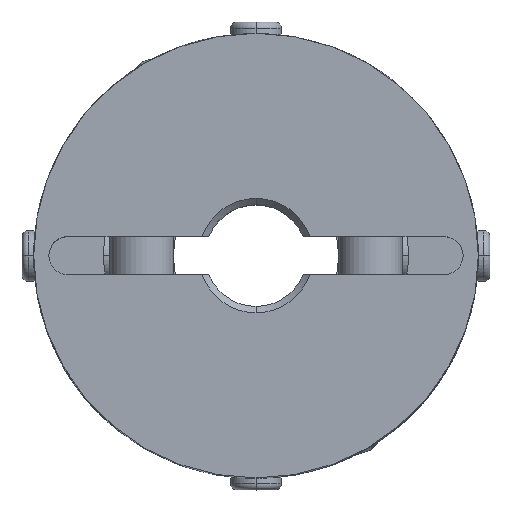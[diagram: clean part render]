
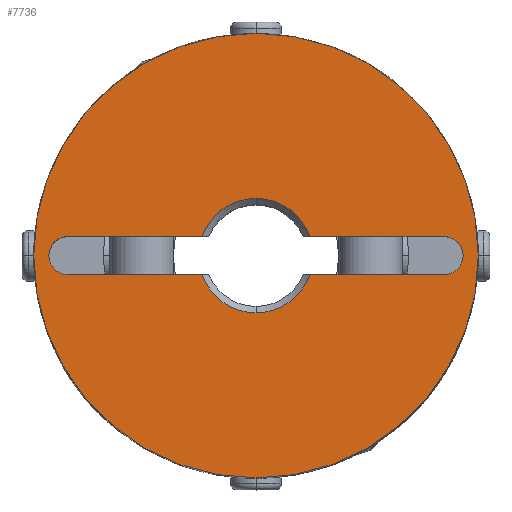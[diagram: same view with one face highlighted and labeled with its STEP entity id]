
A CAD part, top view. The second image highlights one B-rep face of the part: STEP entity #7736.
In plain terms, the highlighted planar face has unit normal (0, 0, 1).
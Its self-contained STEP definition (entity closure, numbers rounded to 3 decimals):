
#785=CARTESIAN_POINT('',(0.,17.5,17.5));
#786=VERTEX_POINT('',#785);
#793=CARTESIAN_POINT('',(0.,-17.5,17.5));
#794=VERTEX_POINT('',#793);
#795=CARTESIAN_POINT('',(0.0,0.0,17.5));
#796=DIRECTION('',(0.0,0.0,-1.0));
#797=DIRECTION('',(0.0,-1.0,0.0));
#798=AXIS2_PLACEMENT_3D('',#795,#796,#797);
#799=CIRCLE('',#798,17.5);
#800=EDGE_CURVE('',#786,#794,#799,.T.);
#1115=CARTESIAN_POINT('',(15.861,1.061,17.5));
#1116=VERTEX_POINT('',#1115);
#1132=CARTESIAN_POINT('',(14.8,-1.5,17.5));
#1133=VERTEX_POINT('',#1132);
#1140=CARTESIAN_POINT('',(14.8,0.,17.5));
#1141=DIRECTION('',(0.0,0.0,1.0));
#1142=DIRECTION('',(0.707,-0.707,0.0));
#1143=AXIS2_PLACEMENT_3D('',#1140,#1141,#1142);
#1144=CIRCLE('',#1143,1.5);
#1145=EDGE_CURVE('',#1133,#1116,#1144,.T.);
#1157=CARTESIAN_POINT('',(-15.861,-1.061,17.5));
#1158=VERTEX_POINT('',#1157);
#1174=CARTESIAN_POINT('',(-14.8,1.5,17.5));
#1175=VERTEX_POINT('',#1174);
#1182=CARTESIAN_POINT('',(-14.8,0.,17.5));
#1183=DIRECTION('',(0.0,0.0,1.0));
#1184=DIRECTION('',(-0.707,0.707,0.0));
#1185=AXIS2_PLACEMENT_3D('',#1182,#1183,#1184);
#1186=CIRCLE('',#1185,1.5);
#1187=EDGE_CURVE('',#1175,#1158,#1186,.T.);
#2307=CARTESIAN_POINT('',(0.,4.5,17.5));
#2308=VERTEX_POINT('',#2307);
#2316=CARTESIAN_POINT('',(4.243,1.5,17.5));
#2317=VERTEX_POINT('',#2316);
#2331=CARTESIAN_POINT('',(0.,0.,17.5));
#2332=DIRECTION('',(0.0,0.0,1.0));
#2333=DIRECTION('',(0.0,1.0,0.0));
#2334=AXIS2_PLACEMENT_3D('',#2331,#2332,#2333);
#2335=CIRCLE('',#2334,4.5);
#2336=EDGE_CURVE('',#2317,#2308,#2335,.T.);
#2346=CARTESIAN_POINT('',(0.,-4.5,17.5));
#2347=VERTEX_POINT('',#2346);
#2363=CARTESIAN_POINT('',(-4.243,-1.5,17.5));
#2364=VERTEX_POINT('',#2363);
#2378=CARTESIAN_POINT('',(0.,0.,17.5));
#2379=DIRECTION('',(0.0,0.0,1.0));
#2380=DIRECTION('',(0.0,-1.0,0.0));
#2381=AXIS2_PLACEMENT_3D('',#2378,#2379,#2380);
#2382=CIRCLE('',#2381,4.5);
#2383=EDGE_CURVE('',#2364,#2347,#2382,.T.);
#7452=CARTESIAN_POINT('',(14.8,1.5,17.5));
#7453=VERTEX_POINT('',#7452);
#7460=CARTESIAN_POINT('',(4.243,1.5,17.5));
#7461=DIRECTION('',(1.0,0.0,0.0));
#7462=VECTOR('',#7461,10.557);
#7463=LINE('',#7460,#7462);
#7464=EDGE_CURVE('',#2317,#7453,#7463,.T.);
#7621=CARTESIAN_POINT('',(4.243,-1.5,17.5));
#7622=VERTEX_POINT('',#7621);
#7636=CARTESIAN_POINT('',(14.8,-1.5,17.5));
#7637=DIRECTION('',(-1.0,0.0,0.0));
#7638=VECTOR('',#7637,10.557);
#7639=LINE('',#7636,#7638);
#7640=EDGE_CURVE('',#1133,#7622,#7639,.T.);
#7663=CARTESIAN_POINT('',(0.,0.,17.5));
#7664=DIRECTION('',(0.0,0.0,1.0));
#7665=DIRECTION('',(0.0,-1.0,0.0));
#7666=AXIS2_PLACEMENT_3D('',#7663,#7664,#7665);
#7667=CIRCLE('',#7666,4.5);
#7668=EDGE_CURVE('',#2347,#7622,#7667,.T.);
#7675=CARTESIAN_POINT('',(0.,-1.591,17.5));
#7676=DIRECTION('',(0.0,0.0,1.0));
#7677=DIRECTION('',(0.0,-1.0,0.0));
#7678=AXIS2_PLACEMENT_3D('',#7675,#7676,#7677);
#7679=PLANE('',#7678);
#7680=CARTESIAN_POINT('',(0.0,0.0,17.5));
#7681=DIRECTION('',(0.0,0.0,-1.0));
#7682=DIRECTION('',(0.0,-1.0,0.0));
#7683=AXIS2_PLACEMENT_3D('',#7680,#7681,#7682);
#7684=CIRCLE('',#7683,17.5);
#7685=EDGE_CURVE('',#794,#786,#7684,.T.);
#7686=ORIENTED_EDGE('',*,*,#7685,.F.);
#7687=ORIENTED_EDGE('',*,*,#800,.F.);
#7688=EDGE_LOOP('',(#7686,#7687));
#7689=FACE_OUTER_BOUND('',#7688,.T.);
#7690=ORIENTED_EDGE('',*,*,#2383,.F.);
#7691=CARTESIAN_POINT('',(-14.8,-1.5,17.5));
#7692=VERTEX_POINT('',#7691);
#7693=CARTESIAN_POINT('',(-4.243,-1.5,17.5));
#7694=DIRECTION('',(-1.0,0.0,0.0));
#7695=VECTOR('',#7694,10.557);
#7696=LINE('',#7693,#7695);
#7697=EDGE_CURVE('',#2364,#7692,#7696,.T.);
#7698=ORIENTED_EDGE('',*,*,#7697,.T.);
#7699=CARTESIAN_POINT('',(-14.8,0.,17.5));
#7700=DIRECTION('',(0.0,0.0,1.0));
#7701=DIRECTION('',(-0.707,0.707,0.0));
#7702=AXIS2_PLACEMENT_3D('',#7699,#7700,#7701);
#7703=CIRCLE('',#7702,1.5);
#7704=EDGE_CURVE('',#1158,#7692,#7703,.T.);
#7705=ORIENTED_EDGE('',*,*,#7704,.F.);
#7706=ORIENTED_EDGE('',*,*,#1187,.F.);
#7707=CARTESIAN_POINT('',(-4.243,1.5,17.5));
#7708=VERTEX_POINT('',#7707);
#7709=CARTESIAN_POINT('',(-14.8,1.5,17.5));
#7710=DIRECTION('',(1.0,0.0,0.0));
#7711=VECTOR('',#7710,10.557);
#7712=LINE('',#7709,#7711);
#7713=EDGE_CURVE('',#1175,#7708,#7712,.T.);
#7714=ORIENTED_EDGE('',*,*,#7713,.T.);
#7715=CARTESIAN_POINT('',(0.,0.,17.5));
#7716=DIRECTION('',(0.0,0.0,1.0));
#7717=DIRECTION('',(0.0,1.0,0.0));
#7718=AXIS2_PLACEMENT_3D('',#7715,#7716,#7717);
#7719=CIRCLE('',#7718,4.5);
#7720=EDGE_CURVE('',#2308,#7708,#7719,.T.);
#7721=ORIENTED_EDGE('',*,*,#7720,.F.);
#7722=ORIENTED_EDGE('',*,*,#2336,.F.);
#7723=ORIENTED_EDGE('',*,*,#7464,.T.);
#7724=CARTESIAN_POINT('',(14.8,0.,17.5));
#7725=DIRECTION('',(0.0,0.0,1.0));
#7726=DIRECTION('',(0.707,-0.707,0.0));
#7727=AXIS2_PLACEMENT_3D('',#7724,#7725,#7726);
#7728=CIRCLE('',#7727,1.5);
#7729=EDGE_CURVE('',#1116,#7453,#7728,.T.);
#7730=ORIENTED_EDGE('',*,*,#7729,.F.);
#7731=ORIENTED_EDGE('',*,*,#1145,.F.);
#7732=ORIENTED_EDGE('',*,*,#7640,.T.);
#7733=ORIENTED_EDGE('',*,*,#7668,.F.);
#7734=EDGE_LOOP('',(#7690,#7698,#7705,#7706,#7714,#7721,#7722,#7723,#7730,#7731,#7732,#7733));
#7735=FACE_BOUND('',#7734,.T.);
#7736=ADVANCED_FACE('',(#7689,#7735),#7679,.T.);
